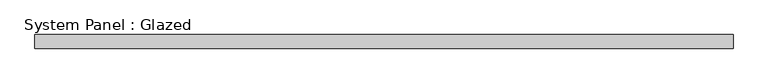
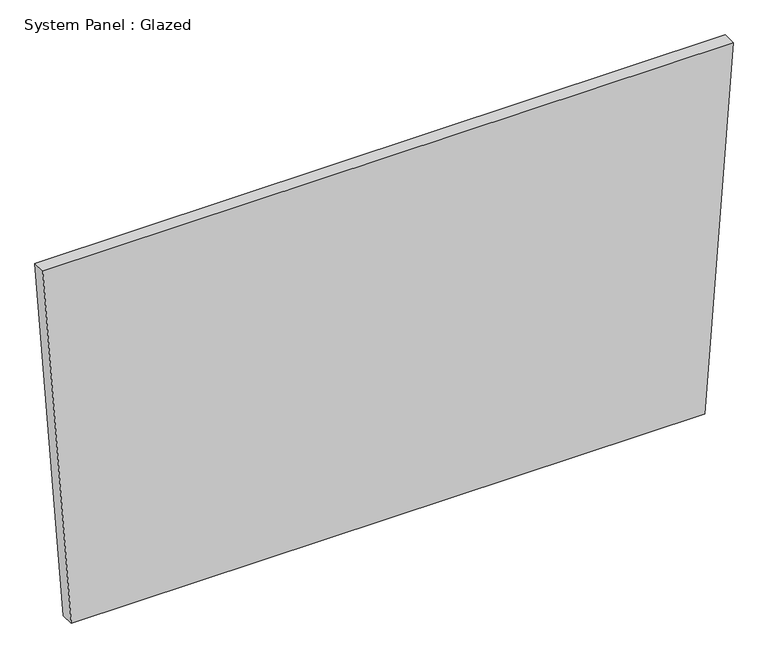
"""IFC4 building model written with IfcOpenShell, lengths in millimetres: plate geometry, System Panel : Glazed."""

from ifc_helpers import new_model, si_unit, frame, origin, place, context, project, spatial, polyline, outline, extrude, source, transform, mapped, element, save


def system_panel_glazed_7a24bfd0(model_context):
    return source(origin(), model_context, "Body", "SweptSolid", [
        extrude(outline(polyline([(0.0, -598.1644191), (0.0131925, 598.1643307), (722.9148611, 652.0105362), (722.900481, -652.0105362), (0.0, -598.1644191)])), frame((0.0, 19.05, 0.0), z_axis=(0.0, 1.0, 0.0), x_axis=(0.0, 0.0, 1.0)), (0.0, 0.0, 1.0), 25.4),
    ])


if __name__ == "__main__":
    model = new_model("IFC4")
    model_context = context("Model", 3, world=origin())
    ifc_project = project(units=[si_unit("LENGTHUNIT", "METRE", prefix="MILLI")], contexts=[model_context])
    site = spatial("IfcSite", under=ifc_project)
    building = spatial("IfcBuilding", under=site)
    placement = place(None, origin())
    system_panel_glazed_shape = system_panel_glazed_7a24bfd0(model_context)
    element("IfcPlate", 1, ObjectType="System Panel : Glazed", at=placement, inside=building, context=model_context, shape_type="MappedRepresentation", body=[
        mapped(system_panel_glazed_shape, transform((0.0, 0.0, 0.0), x_axis=(1.0, 0.0, 0.0), y_axis=(0.0, 1.0, 0.0), z_axis=(0.0, 0.0, 1.0))),
    ])
    save(model, "model.ifc")
